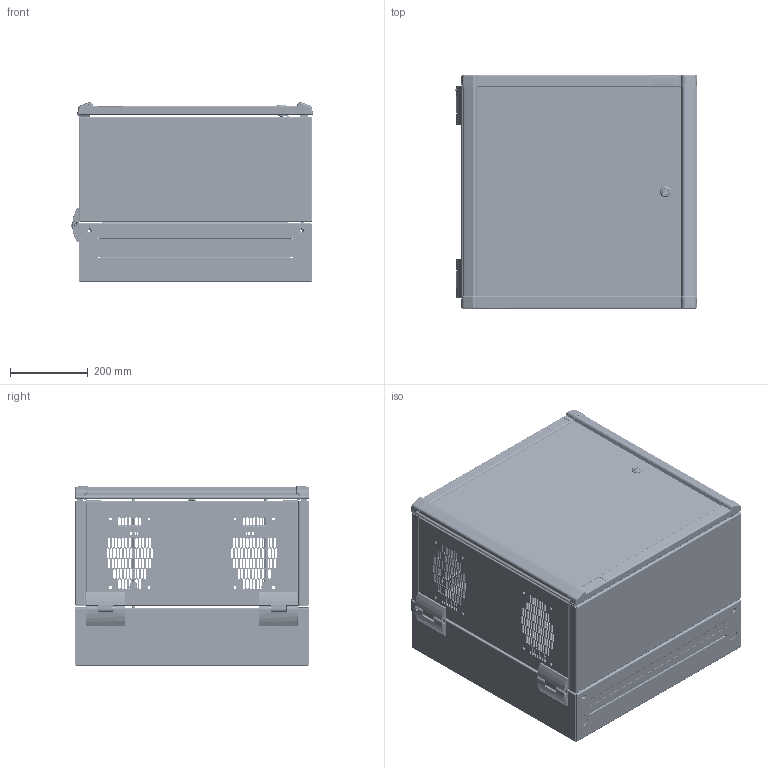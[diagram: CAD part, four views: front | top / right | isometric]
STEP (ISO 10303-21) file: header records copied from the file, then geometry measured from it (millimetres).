
FILE_DESCRIPTION (( 'STEP AP203' ), '1' );
FILE_NAME ('ewmwg242418.STEP', '2018-06-13T15:13:53', ( '' ), ( '' ), 'SwSTEP 2.0', 'SolidWorks 2014', '' );
FILE_SCHEMA (( 'CONFIG_CONTROL_DESIGN' ));
Length unit declared in the file: millimetre
Products named in the file (35): 87935064_87935064; 89066978; 87931593; 99414156; 87931289_87931289; 89066979_WITH STAKE; 87931598; 87937614_Access Plus wdo dr; 87931287_87931287; 89091800; 87932394_87932394; 87928600; 87937812; 89066980; 87935075; 89069243; 87931291_87931291; 60127314; 87936875; 87417023; 87931285_87931285; 87935062_87935062; 89113746; 89072121_87931339; 87931295_87931295; 87931293_87931293; 87934020_87934020; ewmwg242418; 89066977_AS REAMED; 87935073_87935073; 87931299_87931299; 87934018_87934018; 87540581; 87933969; 87933389_Access Plus wdo dr
Assembly tree (73 placements, depth 4):
  ewmwg242418
    87935064_87935064
      87935062_87935062  x2
      87934020_87934020
      87934018_87934018
    87931295_87931295
      87931289_87931289
      87931287_87931287  x2
      87937812
      87931291_87931291  x4
      87931285_87931285  x2
      87931293_87931293  x2
      87931299_87931299  x2
      87937614_Access Plus wdo dr
        87933389_Access Plus wdo dr
        99414156
      87928600
      89069243  x8
      87417023  x2
    87935073_87935073
    87933969  x2
    87931593  x2
    87931598  x2
    87932394_87932394  x2
    87935075  x2
    87936875  x4
    89072121_87931339  x2
    89066978  x2
      89066977_AS REAMED
      87540581
    89066980  x2
      89066979_WITH STAKE
      89091800
      87540581
    60127314  x8
    89113746  x2
Bounding box: 622.7 x 602.64 x 462.17 mm (x, y, z)
Volume: 7343217 mm3; surface area: 5336323.2 mm2
Topology: 127 solids, 131 shells, 10950 faces, 28398 edges, 17610 vertices
Faces by surface type: plane 4268, cylinder 4098, bspline 1180, torus 582, cone 509, sphere 313
Entity records: 242696 total; most frequent: CARTESIAN_POINT 72334, ORIENTED_EDGE 35496, DIRECTION 33825, EDGE_CURVE 17748, AXIS2_PLACEMENT_3D 12081, VERTEX_POINT 11151, VECTOR 9663, LINE 9663
